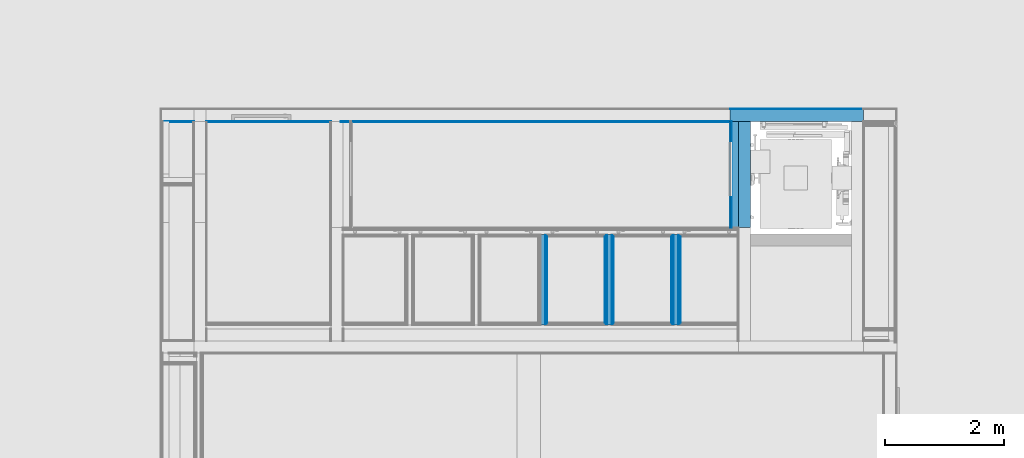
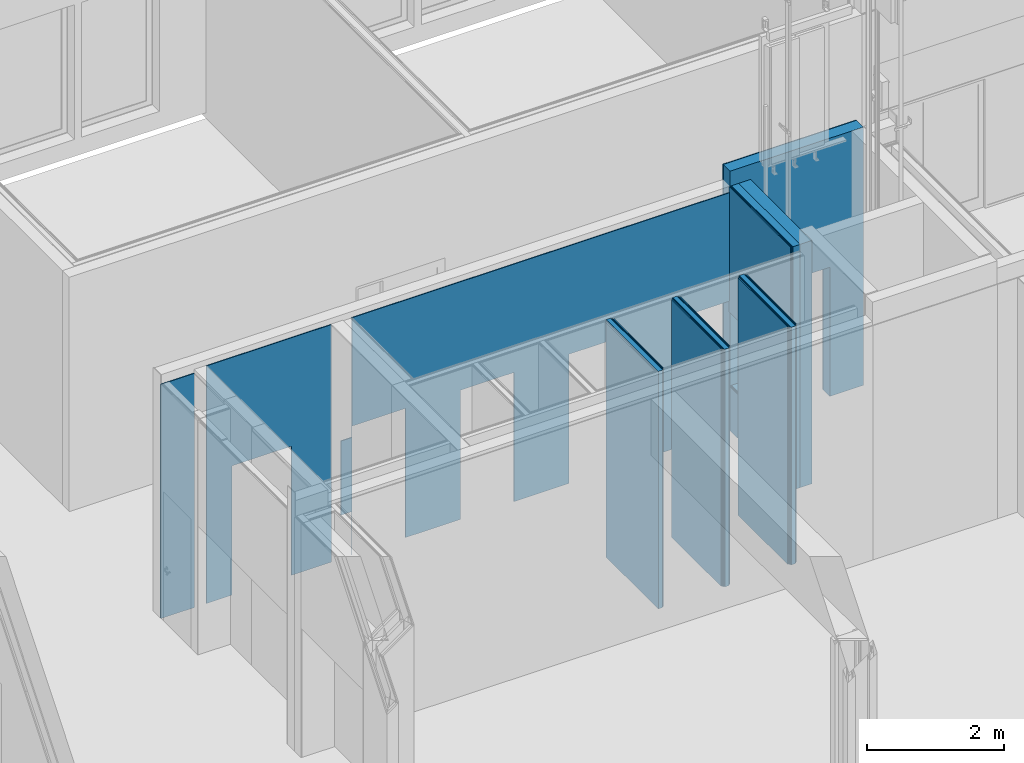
# One storey, part 183 of 260: 26 building element parts, 9 openings, 6 elements without a shape of their own.
"""IFC2X3 building model written with IfcOpenShell, lengths in millimetres."""

from ifc_helpers import new_model, entity, si_unit, converted_unit, derived_unit, money_unit, direction, frame, origin_with_axes, place, context, subcontext, project, spatial, faceted_brep, material, type_object, element, aggregate, save


model = new_model("IFC2X3")

# Units and contexts
model_context = context("Model", 3, precision=0.01, world=origin_with_axes(), true_north=direction((0.0, 1.0)))
body_context = subcontext(model_context, "Body", "Model", "MODEL_VIEW")
ifc_project = project(units=[si_unit("LENGTHUNIT", "METRE", prefix="MILLI"), si_unit("AREAUNIT", "SQUARE_METRE"), si_unit("VOLUMEUNIT", "CUBIC_METRE"), converted_unit("PLANEANGLEUNIT", "DEGREE", entity("IfcPlaneAngleMeasure", 0.0174532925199), si_unit("PLANEANGLEUNIT", "RADIAN"), dimensions=[0, 0, 0, 0, 0, 0, 0]), money_unit("EUR"), converted_unit("TIMEUNIT", "Year", entity("IfcTimeMeasure", 31556926.0), si_unit("TIMEUNIT", "SECOND"), dimensions=[0, 0, 1, 0, 0, 0, 0]), si_unit("MASSUNIT", "GRAM", prefix="KILO"), si_unit("THERMODYNAMICTEMPERATUREUNIT", "DEGREE_CELSIUS"), si_unit("LUMINOUSINTENSITYUNIT", "LUMEN"), si_unit("ENERGYUNIT", "JOULE", prefix="MEGA"), derived_unit("THERMALCONDUCTANCEUNIT", [(si_unit("POWERUNIT", "WATT"), 1), (si_unit("LENGTHUNIT", "METRE"), -1), (si_unit("THERMODYNAMICTEMPERATUREUNIT", "KELVIN"), -1)]), derived_unit("SPECIFICHEATCAPACITYUNIT", [(si_unit("ENERGYUNIT", "JOULE"), 1), (si_unit("MASSUNIT", "GRAM", prefix="KILO"), -1), (si_unit("THERMODYNAMICTEMPERATUREUNIT", "KELVIN"), -1)]), derived_unit("MASSDENSITYUNIT", [(si_unit("MASSUNIT", "GRAM", prefix="KILO"), 1), (si_unit("VOLUMEUNIT", "CUBIC_METRE"), -1)])], contexts=[model_context])

# Site, building, storey
site_placement = place(None, origin_with_axes())
site = spatial("IfcSite", under=ifc_project, at=site_placement, Name="Kolde pst 67a", CompositionType="ELEMENT")
building_placement = place(site_placement, origin_with_axes())
building = spatial("IfcBuilding", under=site, at=building_placement, Name="Riigigümnaasium", CompositionType="ELEMENT")
storey_placement = place(building_placement, origin_with_axes())
storey = spatial("IfcBuildingStorey", under=building, at=storey_placement, Name="1. korrus", CompositionType="ELEMENT", Elevation=0.0)

# Wall, building element parts
wall_type_1 = type_object("IfcWallType", Name="SS-MK-7,5/1_plaaditud 155", PredefinedType="NOTDEFINED")
wall_1_placement = place(storey_placement, frame((43519.9854607, 46179.9999966, 0.0), z_axis=(0.0, 0.0, 1.0), x_axis=(0.0, 1.0, 0.0)))
wall_1 = element("IfcWall", 1, at=wall_1_placement, inside=storey, type_object=wall_type_1, Name="Sisesein")
ifc_material_1 = material(Name="_VIIMISTLUSKIHT - viimistlus vastavalt SA osale")
building_element_part_1_placement = place(wall_1_placement, origin_with_axes())
building_element_part_1 = element("IfcBuildingElementPart", 2, at=building_element_part_1_placement, material=ifc_material_1, Name="_VIIMISTLUSKIHT - viimistlus vastavalt SA osale", context=body_context, shape_type="Brep", body=[
    faceted_brep([(1443.49996421, 0.0, 4230.0), (1443.49996421, -15.0, 4230.0), (1443.49996421, -15.0, 0.0), (1443.49996421, 0.0, 0.0), (0.0, -15.0, 4230.0), (0.0, 0.0, 4230.0), (0.0, -15.0, 0.0), (0.0, 0.0, 0.0)], [[[0, 1, 2, 3]], [[4, 1, 0, 5]], [[1, 4, 6, 2]], [[3, 2, 6, 7]], [[5, 0, 3, 7]], [[4, 5, 7, 6]]]),
])
ifc_material_2 = material(Name="_PLAATMATERJAL - kipsplaat veekindel")
building_element_part_2_placement = place(wall_1_placement, origin_with_axes())
building_element_part_2 = element("IfcBuildingElementPart", 3, at=building_element_part_2_placement, material=ifc_material_2, Name="_PLAATMATERJAL - kipsplaat veekindel", context=body_context, shape_type="Brep", body=[
    faceted_brep([(1458.49996421, -15.0, 4230.0), (1458.49996421, -27.5, 4230.0), (1458.49996421, -27.5, 0.0), (1458.49996421, -15.0, 0.0), (-15.0, -27.5, 4230.0), (-15.0, -15.0, 4230.0), (-15.0, -27.5, 0.0), (-15.0, -15.0, 0.0)], [[[0, 1, 2, 3]], [[4, 1, 0, 5]], [[1, 4, 6, 2]], [[3, 2, 6, 7]], [[5, 0, 3, 7]], [[4, 5, 7, 6]]]),
])
building_element_part_3_placement = place(wall_1_placement, origin_with_axes())
building_element_part_3 = element("IfcBuildingElementPart", 4, at=building_element_part_3_placement, material=ifc_material_2, Name="_PLAATMATERJAL - kipsplaat veekindel", context=body_context, shape_type="Brep", body=[
    faceted_brep([(1470.99996421, -27.5, 4230.0), (1470.99996421, -40.0, 4230.0), (1470.99996421, -40.0, 0.0), (1470.99996421, -27.5, 0.0), (-27.5, -40.0, 4230.0), (-27.5, -27.5, 4230.0), (-27.5, -40.0, 0.0), (-27.5, -27.5, 0.0)], [[[0, 1, 2, 3]], [[4, 1, 0, 5]], [[1, 4, 6, 2]], [[3, 2, 6, 7]], [[5, 0, 3, 7]], [[4, 5, 7, 6]]]),
])
ifc_material_3 = material(Name="_KARKASS - metallkarkass CW 75/50, mineraalvill karkassi vahel")
building_element_part_4_placement = place(wall_1_placement, origin_with_axes())
building_element_part_4 = element("IfcBuildingElementPart", 5, at=building_element_part_4_placement, material=ifc_material_3, Name="_KARKASS - metallkarkass CW 75/50, mineraalvill karkassi vahel", context=body_context, shape_type="Brep", body=[
    faceted_brep([(1483.49996421, -40.0, 4230.0), (1483.49996421, -115.0, 4230.0), (1483.49996421, -115.0, 0.0), (1483.49996421, -40.0, 0.0), (-40.0, -115.0, 4230.0), (-40.0, -40.0, 4230.0), (-40.0, -115.0, 0.0), (-40.0, -40.0, 0.0)], [[[0, 1, 2, 3]], [[4, 1, 0, 5]], [[1, 4, 6, 2]], [[3, 2, 6, 7]], [[5, 0, 3, 7]], [[4, 5, 7, 6]]]),
])
building_element_part_5_placement = place(wall_1_placement, origin_with_axes())
building_element_part_5 = element("IfcBuildingElementPart", 6, at=building_element_part_5_placement, material=ifc_material_2, Name="_PLAATMATERJAL - kipsplaat veekindel", context=body_context, shape_type="Brep", body=[
    faceted_brep([(1470.99996421, -115.0, 4230.0), (1470.99996421, -127.5, 4230.0), (1470.99996421, -127.5, 0.0), (1470.99996421, -115.0, 0.0), (-27.5, -127.5, 4230.0), (-27.5, -115.0, 4230.0), (-27.5, -127.5, 0.0), (-27.5, -115.0, 0.0)], [[[0, 1, 2, 3]], [[4, 1, 0, 5]], [[1, 4, 6, 2]], [[3, 2, 6, 7]], [[5, 0, 3, 7]], [[4, 5, 7, 6]]]),
])
building_element_part_6_placement = place(wall_1_placement, origin_with_axes())
building_element_part_6 = element("IfcBuildingElementPart", 7, at=building_element_part_6_placement, material=ifc_material_2, Name="_PLAATMATERJAL - kipsplaat veekindel", context=body_context, shape_type="Brep", body=[
    faceted_brep([(1458.49996421, -127.5, 4230.0), (1458.49996421, -140.0, 4230.0), (1458.49996421, -140.0, 0.0), (1458.49996421, -127.5, 0.0), (-15.0, -140.0, 4230.0), (-15.0, -127.5, 4230.0), (-15.0, -140.0, 0.0), (-15.0, -127.5, 0.0)], [[[0, 1, 2, 3]], [[4, 1, 0, 5]], [[1, 4, 6, 2]], [[3, 2, 6, 7]], [[5, 0, 3, 7]], [[4, 5, 7, 6]]]),
])
building_element_part_7_placement = place(wall_1_placement, origin_with_axes())
building_element_part_7 = element("IfcBuildingElementPart", 8, at=building_element_part_7_placement, material=ifc_material_1, Name="_VIIMISTLUSKIHT - viimistlus vastavalt SA osale", context=body_context, shape_type="Brep", body=[
    faceted_brep([(1443.49996421, -140.0, 4230.0), (1443.49996421, -155.0, 4230.0), (1443.49996421, -155.0, 0.0), (1443.49996421, -140.0, 0.0), (0.0, -155.0, 4230.0), (0.0, -140.0, 4230.0), (0.0, -155.0, 0.0), (0.0, -140.0, 0.0)], [[[0, 1, 2, 3]], [[4, 1, 0, 5]], [[1, 4, 6, 2]], [[3, 2, 6, 7]], [[5, 0, 3, 7]], [[4, 5, 7, 6]]]),
])
aggregate(wall_1, [building_element_part_1, building_element_part_2, building_element_part_3, building_element_part_4, building_element_part_5, building_element_part_6, building_element_part_7])

wall_2_placement = place(storey_placement, frame((42399.9854607, 46179.9999966, 0.0), z_axis=(0.0, 0.0, 1.0), x_axis=(0.0, 1.0, 0.0)))
wall_2 = element("IfcWall", 9, at=wall_2_placement, inside=storey, type_object=wall_type_1, Name="Sisesein")
building_element_part_8_placement = place(wall_2_placement, origin_with_axes())
building_element_part_8 = element("IfcBuildingElementPart", 10, at=building_element_part_8_placement, material=ifc_material_3, Name="_KARKASS - metallkarkass CW 75/50, mineraalvill karkassi vahel", context=body_context, shape_type="Brep", body=[
    faceted_brep([(1483.49996421, -40.0, 4230.0), (1483.49996421, -115.0, 4230.0), (1483.49996421, -115.0, 0.0), (1483.49996421, -40.0, 0.0), (-40.0, -115.0, 4230.0), (-40.0, -40.0, 4230.0), (-40.0, -115.0, 0.0), (-40.0, -40.0, 0.0)], [[[0, 1, 2, 3]], [[4, 1, 0, 5]], [[1, 4, 6, 2]], [[3, 2, 6, 7]], [[5, 0, 3, 7]], [[4, 5, 7, 6]]]),
])
building_element_part_9_placement = place(wall_2_placement, origin_with_axes())
building_element_part_9 = element("IfcBuildingElementPart", 11, at=building_element_part_9_placement, material=ifc_material_2, Name="_PLAATMATERJAL - kipsplaat veekindel", context=body_context, shape_type="Brep", body=[
    faceted_brep([(1470.99996421, -115.0, 4230.0), (1470.99996421, -127.5, 4230.0), (1470.99996421, -127.5, 0.0), (1470.99996421, -115.0, 0.0), (-27.5, -127.5, 4230.0), (-27.5, -115.0, 4230.0), (-27.5, -127.5, 0.0), (-27.5, -115.0, 0.0)], [[[0, 1, 2, 3]], [[4, 1, 0, 5]], [[1, 4, 6, 2]], [[3, 2, 6, 7]], [[5, 0, 3, 7]], [[4, 5, 7, 6]]]),
])
building_element_part_10_placement = place(wall_2_placement, origin_with_axes())
building_element_part_10 = element("IfcBuildingElementPart", 12, at=building_element_part_10_placement, material=ifc_material_2, Name="_PLAATMATERJAL - kipsplaat veekindel", context=body_context, shape_type="Brep", body=[
    faceted_brep([(1458.49996421, -127.5, 4230.0), (1458.49996421, -140.0, 4230.0), (1458.49996421, -140.0, 0.0), (1458.49996421, -127.5, 0.0), (-15.0, -140.0, 4230.0), (-15.0, -127.5, 4230.0), (-15.0, -140.0, 0.0), (-15.0, -127.5, 0.0)], [[[0, 1, 2, 3]], [[4, 1, 0, 5]], [[1, 4, 6, 2]], [[3, 2, 6, 7]], [[5, 0, 3, 7]], [[4, 5, 7, 6]]]),
])
building_element_part_11_placement = place(wall_2_placement, origin_with_axes())
building_element_part_11 = element("IfcBuildingElementPart", 13, at=building_element_part_11_placement, material=ifc_material_1, Name="_VIIMISTLUSKIHT - viimistlus vastavalt SA osale", context=body_context, shape_type="Brep", body=[
    faceted_brep([(1443.49996421, -140.0, 4230.0), (1443.49996421, -155.0, 4230.0), (1443.49996421, -155.0, 0.0), (1443.49996421, -140.0, 0.0), (0.0, -155.0, 4230.0), (0.0, -140.0, 4230.0), (0.0, -155.0, 0.0), (0.0, -140.0, 0.0)], [[[0, 1, 2, 3]], [[4, 1, 0, 5]], [[1, 4, 6, 2]], [[3, 2, 6, 7]], [[5, 0, 3, 7]], [[4, 5, 7, 6]]]),
])
aggregate(wall_2, [building_element_part_8, building_element_part_9, building_element_part_10, building_element_part_11])

wall_3_placement = place(storey_placement, frame((44639.9854607, 46179.9999966, 0.0), z_axis=(0.0, 0.0, 1.0), x_axis=(0.0, 1.0, 0.0)))
wall_3 = element("IfcWall", 14, at=wall_3_placement, inside=storey, type_object=wall_type_1, Name="Sisesein")
building_element_part_12_placement = place(wall_3_placement, origin_with_axes())
building_element_part_12 = element("IfcBuildingElementPart", 15, at=building_element_part_12_placement, material=ifc_material_1, Name="_VIIMISTLUSKIHT - viimistlus vastavalt SA osale", context=body_context, shape_type="Brep", body=[
    faceted_brep([(1443.49996421, 0.0, 4230.0), (1443.49996421, -15.0, 4230.0), (1443.49996421, -15.0, 0.0), (1443.49996421, 0.0, 0.0), (0.0, -15.0, 4230.0), (0.0, 0.0, 4230.0), (0.0, -15.0, 0.0), (0.0, 0.0, 0.0)], [[[0, 1, 2, 3]], [[4, 1, 0, 5]], [[1, 4, 6, 2]], [[3, 2, 6, 7]], [[5, 0, 3, 7]], [[4, 5, 7, 6]]]),
])
building_element_part_13_placement = place(wall_3_placement, origin_with_axes())
building_element_part_13 = element("IfcBuildingElementPart", 16, at=building_element_part_13_placement, material=ifc_material_2, Name="_PLAATMATERJAL - kipsplaat veekindel", context=body_context, shape_type="Brep", body=[
    faceted_brep([(1458.49996421, -15.0, 4230.0), (1458.49996421, -27.5, 4230.0), (1458.49996421, -27.5, 0.0), (1458.49996421, -15.0, 0.0), (-15.0, -27.5, 4230.0), (-15.0, -15.0, 4230.0), (-15.0, -27.5, 0.0), (-15.0, -15.0, 0.0)], [[[0, 1, 2, 3]], [[4, 1, 0, 5]], [[1, 4, 6, 2]], [[3, 2, 6, 7]], [[5, 0, 3, 7]], [[4, 5, 7, 6]]]),
])
building_element_part_14_placement = place(wall_3_placement, origin_with_axes())
building_element_part_14 = element("IfcBuildingElementPart", 17, at=building_element_part_14_placement, material=ifc_material_2, Name="_PLAATMATERJAL - kipsplaat veekindel", context=body_context, shape_type="Brep", body=[
    faceted_brep([(1470.99996421, -27.5, 4230.0), (1470.99996421, -40.0, 4230.0), (1470.99996421, -40.0, 0.0), (1470.99996421, -27.5, 0.0), (-27.5, -40.0, 4230.0), (-27.5, -27.5, 4230.0), (-27.5, -40.0, 0.0), (-27.5, -27.5, 0.0)], [[[0, 1, 2, 3]], [[4, 1, 0, 5]], [[1, 4, 6, 2]], [[3, 2, 6, 7]], [[5, 0, 3, 7]], [[4, 5, 7, 6]]]),
])
building_element_part_15_placement = place(wall_3_placement, origin_with_axes())
building_element_part_15 = element("IfcBuildingElementPart", 18, at=building_element_part_15_placement, material=ifc_material_3, Name="_KARKASS - metallkarkass CW 75/50, mineraalvill karkassi vahel", context=body_context, shape_type="Brep", body=[
    faceted_brep([(1483.49996421, -40.0, 4230.0), (1483.49996421, -115.0, 4230.0), (1483.49996421, -115.0, 0.0), (1483.49996421, -40.0, 0.0), (-40.0, -115.0, 4230.0), (-40.0, -40.0, 4230.0), (-40.0, -115.0, 0.0), (-40.0, -40.0, 0.0)], [[[0, 1, 2, 3]], [[4, 1, 0, 5]], [[1, 4, 6, 2]], [[3, 2, 6, 7]], [[5, 0, 3, 7]], [[4, 5, 7, 6]]]),
])
building_element_part_16_placement = place(wall_3_placement, origin_with_axes())
building_element_part_16 = element("IfcBuildingElementPart", 19, at=building_element_part_16_placement, material=ifc_material_2, Name="_PLAATMATERJAL - kipsplaat veekindel", context=body_context, shape_type="Brep", body=[
    faceted_brep([(1470.99996421, -115.0, 4230.0), (1470.99996421, -127.5, 4230.0), (1470.99996421, -127.5, 0.0), (1470.99996421, -115.0, 0.0), (-27.5, -127.5, 4230.0), (-27.5, -115.0, 4230.0), (-27.5, -127.5, 0.0), (-27.5, -115.0, 0.0)], [[[0, 1, 2, 3]], [[4, 1, 0, 5]], [[1, 4, 6, 2]], [[3, 2, 6, 7]], [[5, 0, 3, 7]], [[4, 5, 7, 6]]]),
])
building_element_part_17_placement = place(wall_3_placement, origin_with_axes())
building_element_part_17 = element("IfcBuildingElementPart", 20, at=building_element_part_17_placement, material=ifc_material_2, Name="_PLAATMATERJAL - kipsplaat veekindel", context=body_context, shape_type="Brep", body=[
    faceted_brep([(1458.49996421, -127.5, 4230.0), (1458.49996421, -140.0, 4230.0), (1458.49996421, -140.0, 0.0), (1458.49996421, -127.5, 0.0), (-15.0, -140.0, 4230.0), (-15.0, -127.5, 4230.0), (-15.0, -140.0, 0.0), (-15.0, -127.5, 0.0)], [[[0, 1, 2, 3]], [[4, 1, 0, 5]], [[1, 4, 6, 2]], [[3, 2, 6, 7]], [[5, 0, 3, 7]], [[4, 5, 7, 6]]]),
])
building_element_part_18_placement = place(wall_3_placement, origin_with_axes())
building_element_part_18 = element("IfcBuildingElementPart", 21, at=building_element_part_18_placement, material=ifc_material_1, Name="_VIIMISTLUSKIHT - viimistlus vastavalt SA osale", context=body_context, shape_type="Brep", body=[
    faceted_brep([(1443.49996421, -140.0, 4230.0), (1443.49996421, -155.0, 4230.0), (1443.49996421, -155.0, 0.0), (1443.49996421, -140.0, 0.0), (0.0, -155.0, 4230.0), (0.0, -140.0, 4230.0), (0.0, -155.0, 0.0), (0.0, -140.0, 0.0)], [[[0, 1, 2, 3]], [[4, 1, 0, 5]], [[1, 4, 6, 2]], [[3, 2, 6, 7]], [[5, 0, 3, 7]], [[4, 5, 7, 6]]]),
])
aggregate(wall_3, [building_element_part_12, building_element_part_13, building_element_part_14, building_element_part_15, building_element_part_16, building_element_part_17, building_element_part_18])

# Wall, openings, building element part
wall_type_2 = type_object("IfcWallType", Name="SS-RB-20/2_+2 plaat 230", PredefinedType="NOTDEFINED")
wall_4_placement = place(storey_placement, frame((36039.99923, 49769.9999599, -80.0), z_axis=(0.0, 0.0, 1.0), x_axis=(1.0, 0.0, 0.0)))
wall_4 = element("IfcWall", 22, at=wall_4_placement, inside=storey, type_object=wall_type_2, Name="Sisesein")
opening_1_placement = place(wall_4_placement, origin_with_axes())
element("IfcOpeningElement", 23, at=opening_1_placement, cuts=wall_4, Name="Pale", context=body_context, shape_type="Brep", body=[
    faceted_brep([(15.0, 15.0, 0.0), (0.0, 15.0, 0.0), (0.0, 15.0, 4410.0), (15.0, 15.0, 4410.0), (15.0, -200.0, 0.0), (0.0, -200.0, 0.0), (0.0, -200.0, 4410.0), (15.0, -200.0, 4410.0)], [[[0, 1, 2, 3]], [[0, 4, 5, 1]], [[1, 5, 6, 2]], [[3, 2, 6, 7]], [[4, 0, 3, 7]], [[5, 4, 7, 6]]]),
])
opening_2_placement = place(wall_4_placement, frame((9139.98623068, 0.0, 80.0), z_axis=(0.0, 0.0, 1.0), x_axis=(1.0, 0.0, 0.0)))
element("IfcOpeningElement", 24, at=opening_2_placement, cuts=wall_4, Name="Ukseava", context=body_context, shape_type="Brep", body=[
    faceted_brep([(450.0, 460.0, 0.0), (450.0, 460.0, 2300.0), (450.0, -230.0, 2300.0), (450.0, -230.0, 0.0), (-450.0, 460.0, 0.0), (-450.0, 460.0, 2300.0), (-450.0, -230.0, 2300.0), (-450.0, -230.0, 0.0)], [[[0, 1, 2, 3]], [[0, 4, 5, 1]], [[1, 5, 6, 2]], [[3, 2, 6, 7]], [[4, 0, 3, 7]], [[5, 4, 7, 6]]]),
])
opening_3_placement = place(wall_4_placement, frame((1694.98623068, 0.0, 80.0), z_axis=(0.0, 0.0, 1.0), x_axis=(1.0, 0.0, 0.0)))
element("IfcOpeningElement", 25, at=opening_3_placement, cuts=wall_4, Name="Siseuks", context=body_context, shape_type="Brep", body=[
    faceted_brep([(-500.0, -85.0, 2300.0), (-500.0, -85.0, 0.0), (-500.0, -445.0, 0.0), (-500.0, -445.0, 2300.0), (500.0, -85.0, 2300.0), (500.0, -85.0, 0.0), (500.0, -445.0, 0.0), (500.0, -445.0, 2300.0)], [[[0, 1, 2, 3]], [[0, 4, 5, 1]], [[1, 5, 6, 2]], [[3, 2, 6, 7]], [[4, 0, 3, 7]], [[5, 4, 7, 6]]]),
    faceted_brep([(-500.0, -85.0, 0.0), (-500.0, -85.0, 2300.0), (-500.0, 245.0, 2300.0), (-500.0, 245.0, 0.0), (500.0, -85.0, 0.0), (500.0, -85.0, 2300.0), (500.0, 245.0, 2300.0), (500.0, 245.0, 0.0)], [[[0, 1, 2, 3]], [[0, 4, 5, 1]], [[1, 5, 6, 2]], [[3, 2, 6, 7]], [[4, 0, 3, 7]], [[5, 4, 7, 6]]]),
])
opening_4_placement = place(wall_4_placement, frame((7314.98623068, 0.0, 80.0), z_axis=(0.0, 0.0, 1.0), x_axis=(1.0, 0.0, 0.0)))
element("IfcOpeningElement", 26, at=opening_4_placement, cuts=wall_4, Name="Ukseava", context=body_context, shape_type="Brep", body=[
    faceted_brep([(450.0, 460.0, 0.0), (450.0, 460.0, 2300.0), (450.0, -230.0, 2300.0), (450.0, -230.0, 0.0), (-450.0, 460.0, 0.0), (-450.0, 460.0, 2300.0), (-450.0, -230.0, 2300.0), (-450.0, -230.0, 0.0)], [[[0, 1, 2, 3]], [[0, 4, 5, 1]], [[1, 5, 6, 2]], [[3, 2, 6, 7]], [[4, 0, 3, 7]], [[5, 4, 7, 6]]]),
])
opening_5_placement = place(wall_4_placement, frame((5489.98623068, 0.0, 80.0), z_axis=(0.0, 0.0, 1.0), x_axis=(1.0, 0.0, 0.0)))
element("IfcOpeningElement", 27, at=opening_5_placement, cuts=wall_4, Name="Ukseava", context=body_context, shape_type="Brep", body=[
    faceted_brep([(450.0, 460.0, 0.0), (450.0, 460.0, 2300.0), (450.0, -230.0, 2300.0), (450.0, -230.0, 0.0), (-450.0, 460.0, 0.0), (-450.0, 460.0, 2300.0), (-450.0, -230.0, 2300.0), (-450.0, -230.0, 0.0)], [[[0, 1, 2, 3]], [[0, 4, 5, 1]], [[1, 5, 6, 2]], [[3, 2, 6, 7]], [[4, 0, 3, 7]], [[5, 4, 7, 6]]]),
])
opening_6_placement = place(wall_4_placement, frame((3664.98623068, 0.0, 80.0), z_axis=(0.0, 0.0, 1.0), x_axis=(1.0, 0.0, 0.0)))
element("IfcOpeningElement", 28, at=opening_6_placement, cuts=wall_4, Name="Ukseava", context=body_context, shape_type="Brep", body=[
    faceted_brep([(450.0, 460.0, 0.0), (450.0, 460.0, 2300.0), (450.0, -230.0, 2300.0), (450.0, -230.0, 0.0), (-450.0, 460.0, 0.0), (-450.0, 460.0, 2300.0), (-450.0, -230.0, 2300.0), (-450.0, -230.0, 0.0)], [[[0, 1, 2, 3]], [[0, 4, 5, 1]], [[1, 5, 6, 2]], [[3, 2, 6, 7]], [[4, 0, 3, 7]], [[5, 4, 7, 6]]]),
])
building_element_part_19_placement = place(wall_4_placement, origin_with_axes())
building_element_part_19 = element("IfcBuildingElementPart", 29, at=building_element_part_19_placement, material=ifc_material_1, Name="_VIIMISTLUSKIHT - viimistlus vastavalt SA osale", context=body_context, shape_type="Brep", body=[
    faceted_brep([(565.000000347, -215.0, 80.0), (565.000000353, -200.0, 80.0), (565.0, -200.0, 4250.0), (565.0, -215.0, 4250.0), (0.0, -200.0, 80.0), (0.0, -215.0, 80.0), (0.0, -200.0, 4250.0), (0.0, -215.0, 4250.0)], [[[0, 1, 2, 3]], [[4, 1, 0, 5]], [[1, 4, 6, 2]], [[3, 2, 6, 7]], [[5, 0, 3, 7]], [[4, 5, 7, 6]]]),
    faceted_brep([(3214.98623068, -199.999999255, 2380.0), (3214.98623068, -199.999996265, 80.0), (3214.83128133, -199.999996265, 80.0), (3214.83128133, -199.99995985, 860.0), (3029.83128133, -199.99995985, 860.0), (3029.83128133, -199.99995985, 2180.0), (3214.83128133, -199.99995985, 2180.0), (3214.83128133, -199.99995985, 4310.0), (9589.98623068, -199.99995985, 4310.0), (9589.98623068, -199.999977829, 2380.0), (8689.98623068, -199.999999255, 2380.0), (8689.98623068, -199.999998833, 80.0), (7764.98623068, -199.999998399, 80.0), (7764.98623068, -199.999999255, 2380.0), (6864.98623068, -199.999999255, 2380.0), (6864.98623068, -199.999997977, 80.0), (5939.98623068, -199.999997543, 80.0), (5939.98623068, -199.999999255, 2380.0), (5039.98623068, -199.999999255, 2380.0), (5039.98623068, -199.999997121, 80.0), (4114.98623068, -199.999996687, 80.0), (4114.98623068, -199.999999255, 2380.0), (3214.98623068, -215.0, 2380.0), (3214.98623068, -215.0, 80.0), (3214.83128133, -215.0, 80.0), (3214.83128133, -215.0, 860.0), (3029.83128133, -215.0, 860.0), (3029.83128133, -215.0, 2180.0), (3214.83128133, -215.0, 2180.0), (3214.83128133, -215.0, 4310.0), (9589.98623068, -215.0, 4310.0), (9589.98623068, -215.0, 2380.0), (8689.98623068, -215.0, 2380.0), (8689.98623068, -215.0, 80.0), (7764.98623068, -215.0, 80.0), (7764.98623068, -215.0, 2380.0), (6864.98623068, -215.0, 2380.0), (6864.98623068, -215.0, 80.0), (5939.98623068, -215.0, 80.0), (5939.98623068, -215.0, 2380.0), (5039.98623068, -215.0, 2380.0), (5039.98623068, -215.0, 80.0), (4114.98623068, -215.0, 80.0), (4114.98623068, -215.0, 2380.0)], [[[0, 1, 2, 3, 4, 5, 6, 7, 8, 9, 10, 11, 12, 13, 14, 15, 16, 17, 18, 19, 20, 21]], [[1, 0, 22, 23]], [[1, 23, 24, 2]], [[2, 24, 25, 3]], [[4, 3, 25, 26]], [[27, 5, 4, 26]], [[27, 28, 6, 5]], [[29, 7, 6, 28]], [[30, 8, 7, 29]], [[30, 31, 9, 8]], [[32, 10, 9, 31]], [[33, 11, 10, 32]], [[11, 33, 34, 12]], [[34, 35, 13, 12]], [[35, 36, 14, 13]], [[36, 37, 15, 14]], [[16, 15, 37, 38]], [[16, 38, 39, 17]], [[17, 39, 40, 18]], [[18, 40, 41, 19]], [[42, 20, 19, 41]], [[21, 20, 42, 43]], [[0, 21, 43, 22]], [[43, 42, 41, 40, 39, 38, 37, 36, 35, 34, 33, 32, 31, 30, 29, 28, 27, 26, 25, 24, 23, 22]]]),
    faceted_brep([(1194.98623068, -199.999999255, 2380.0), (1194.98623068, -199.999999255, 80.0), (764.999999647, -199.999999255, 80.0), (764.999999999, -199.99995985, 4310.0), (2869.83128133, -199.99995985, 4310.0), (2869.83128133, -199.999999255, 80.0), (2194.98623068, -199.999999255, 80.0), (2194.98623068, -199.999999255, 2380.0), (1194.98623068, -215.0, 2380.0), (1194.98623068, -215.0, 80.0), (764.999999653, -215.0, 80.0), (764.999999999, -215.0, 4310.0), (2869.83128133, -215.0, 4310.0), (2869.83128133, -215.0, 80.0), (2194.98623068, -215.0, 80.0), (2194.98623068, -215.0, 2380.0)], [[[0, 1, 2, 3, 4, 5, 6, 7]], [[1, 0, 8, 9]], [[1, 9, 10, 2]], [[10, 11, 3, 2]], [[4, 3, 11, 12]], [[5, 4, 12, 13]], [[14, 6, 5, 13]], [[7, 6, 14, 15]], [[0, 7, 15, 8]], [[15, 14, 13, 12, 11, 10, 9, 8]]]),
])
aggregate(wall_4, [building_element_part_19])

# Wall, opening, building element parts
wall_type_3 = type_object("IfcWallType", Name="SS-RB-20/5_+1 plaat 215", PredefinedType="NOTDEFINED")
wall_5_placement = place(storey_placement, frame((45629.9854607, 49769.9999599, 0.0), z_axis=(0.0, 0.0, 1.0), x_axis=(1.0, 0.0, 0.0)))
wall_5 = element("IfcWall", 30, at=wall_5_placement, inside=storey, type_object=wall_type_3, Name="Sisesein")
opening_7_placement = place(wall_5_placement, frame((1078.76891191, 0.0, 0.0), z_axis=(0.0, 0.0, 1.0), x_axis=(1.0, 0.0, 0.0)))
element("IfcOpeningElement", 31, at=opening_7_placement, cuts=wall_5, Name="Siseuks", context=body_context, shape_type="Brep", body=[
    faceted_brep([(600.0, 215.0, 0.0), (600.0, 215.0, 2300.0), (600.0, -430.0, 2300.0), (600.0, -430.0, 0.0), (-600.0, 215.0, 0.0), (-600.0, 215.0, 2300.0), (-600.0, -430.0, 2300.0), (-600.0, -430.0, 0.0)], [[[0, 1, 2, 3]], [[0, 4, 5, 1]], [[1, 5, 6, 2]], [[3, 2, 6, 7]], [[4, 0, 3, 7]], [[5, 4, 7, 6]]]),
])
building_element_part_20_placement = place(wall_5_placement, origin_with_axes())
building_element_part_20 = element("IfcBuildingElementPart", 32, at=building_element_part_20_placement, material=ifc_material_1, Name="_VIIMISTLUSKIHT - viimistlus vastavalt SA osale", context=body_context, shape_type="Brep", body=[
    faceted_brep([(478.768911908, 15.0, 2300.0), (478.768911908, 15.0, 0.0), (0.0, 15.0, 0.0), (0.0, 15.0, 4597.0), (2245.0, 15.0, 4597.0), (2245.0, 15.0, 0.0), (1678.76891191, 15.0, 0.0), (1678.76891191, 15.0, 2300.0), (478.768911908, 0.0, 2300.0), (478.768911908, 0.0, 0.0), (0.0, 0.0, 0.0), (0.0, 0.0, 4597.0), (2245.0, 0.0, 4597.0), (2245.0, 0.0, 0.0), (1678.76891191, 0.0, 0.0), (1678.76891191, 0.0, 2300.0)], [[[0, 1, 2, 3, 4, 5, 6, 7]], [[1, 0, 8, 9]], [[1, 9, 10, 2]], [[3, 2, 10, 11]], [[4, 3, 11, 12]], [[13, 5, 4, 12]], [[14, 6, 5, 13]], [[7, 6, 14, 15]], [[0, 7, 15, 8]], [[15, 14, 13, 12, 11, 10, 9, 8]]]),
])
ifc_material_4 = material(Name="_KANDETARIND - monteeritav raudbetoon vastavalt EK osale")
building_element_part_21_placement = place(wall_5_placement, origin_with_axes())
building_element_part_21 = element("IfcBuildingElementPart", 33, at=building_element_part_21_placement, material=ifc_material_4, Name="_KANDETARIND - monteeritav raudbetoon vastavalt EK osale", context=body_context, shape_type="Brep", body=[
    faceted_brep([(478.768911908, 0.0, 2300.0), (478.768911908, 0.0, 0.0), (0.0, 0.0, 0.0), (0.0, 0.0, 4597.0), (2245.0, 0.0, 4597.0), (2245.0, 0.0, 0.0), (1678.76891191, 0.0, 0.0), (1678.76891191, 0.0, 2300.0), (478.768911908, -200.0, 2300.0), (478.768911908, -200.0, 0.0), (0.0, -200.0, 0.0), (0.0, -200.0, 4597.0), (2245.0, -200.0, 4597.0), (2245.0, -200.0, 0.0), (1678.76891191, -200.0, 0.0), (1678.76891191, -200.0, 2300.0)], [[[0, 1, 2, 3, 4, 5, 6, 7]], [[1, 0, 8, 9]], [[1, 9, 10, 2]], [[3, 2, 10, 11]], [[4, 3, 11, 12]], [[13, 5, 4, 12]], [[14, 6, 5, 13]], [[7, 6, 14, 15]], [[0, 7, 15, 8]], [[15, 14, 13, 12, 11, 10, 9, 8]]]),
])
aggregate(wall_5, [building_element_part_20, building_element_part_21])

# Wall, openings, building element parts
wall_type_4 = type_object("IfcWallType", Name="SS-RB-20/10_+1 plaat +kollektor 360", PredefinedType="NOTDEFINED")
wall_6_placement = place(storey_placement, frame((45774.9854607, 47778.4999608, 0.0), z_axis=(0.0, 0.0, 1.0), x_axis=(0.0, 1.0, 0.0)))
wall_6 = element("IfcWall", 34, at=wall_6_placement, inside=storey, type_object=wall_type_4, Name="Sisesein")
opening_8_placement = place(wall_6_placement, frame((-47778.4999608, 45774.9854607, 0.0), z_axis=(0.0, 0.0, 1.0), x_axis=(0.0, -1.0, 0.0)))
element("IfcOpeningElement", 35, at=opening_8_placement, cuts=wall_6, Name="Tulekustuti nišš vastavalt SA osale", ObjectType="OPENING", context=body_context, shape_type="Brep", body=[
    faceted_brep([(45774.9854607, 48319.9999328, 0.0), (45774.9854607, 48319.9999328, 900.0), (45614.9854607, 48319.9999328, 900.0), (45614.9854607, 48319.9999328, 0.0), (45774.9854607, 49219.9999328, 0.0), (45774.9854607, 49219.9999328, 900.0), (45614.9854607, 49219.9999328, 900.0), (45614.9854607, 49219.9999328, 0.0)], [[[0, 1, 2, 3]], [[0, 4, 5, 1]], [[1, 5, 6, 2]], [[3, 2, 6, 7]], [[4, 0, 3, 7]], [[5, 4, 7, 6]]]),
])
opening_9_placement = place(wall_6_placement, frame((-47778.4999608, 45774.9854607, 0.0), z_axis=(0.0, 0.0, 1.0), x_axis=(0.0, -1.0, 0.0)))
element("IfcOpeningElement", 36, at=opening_9_placement, cuts=wall_6, Name="Tulekustuti nišš vastavalt SA osale", ObjectType="OPENING", context=body_context, shape_type="Brep", body=[
    faceted_brep([(45814.9854712, 49319.9999599, 780.0), (45814.9854712, 49319.9999599, 2100.0), (45614.9854712, 49319.9999599, 2100.0), (45614.9854712, 49319.9999599, 780.0), (45814.9854712, 49569.9999599, 780.0), (45814.9854712, 49569.9999599, 2100.0), (45614.9854712, 49569.9999599, 2100.0), (45614.9854712, 49569.9999599, 780.0)], [[[0, 1, 2, 3]], [[0, 4, 5, 1]], [[1, 5, 6, 2]], [[3, 2, 6, 7]], [[4, 0, 3, 7]], [[5, 4, 7, 6]]]),
])
building_element_part_22_placement = place(wall_6_placement, origin_with_axes())
building_element_part_22 = element("IfcBuildingElementPart", 37, at=building_element_part_22_placement, material=ifc_material_1, Name="_VIIMISTLUSKIHT - viimistlus vastavalt SA osale", context=body_context, shape_type="Brep", body=[
    faceted_brep([(541.499972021, 145.0, 900.0), (541.499972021, 145.0, 1500.0), (1441.49999016, 145.0, 1500.0), (1441.49999016, 145.0, 900.0), (1441.49997202, 145.0, 0.0), (1791.49999905, 145.0, 0.0), (1791.49999905, 145.0, 780.0), (1541.49999905, 145.0, 780.0), (1541.49999905, 145.0, 2100.0), (1791.49999905, 145.0, 2100.0), (1791.49999905, 145.0, 4329.99999523), (0.0, 145.0, 4329.99999523), (0.0, 145.0, 0.0), (541.499972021, 145.0, 0.0), (541.499972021, 160.0, 900.0), (541.499972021, 160.0, 1500.0), (1441.49999016, 160.0, 1500.0), (1441.49999016, 160.0, 900.0), (1441.49997202, 160.0, 0.0), (1791.49999905, 160.0, 0.0), (1791.49999905, 159.999989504, 780.0), (1541.49999905, 159.999989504, 780.0), (1541.49999905, 159.999989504, 2100.0), (1791.49999905, 159.999989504, 2100.0), (1791.49999905, 160.0, 4329.99999523), (0.0, 160.0, 4329.99999523), (0.0, 160.0, 0.0), (541.499972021, 160.0, 0.0)], [[[0, 1, 2, 3, 4, 5, 6, 7, 8, 9, 10, 11, 12, 13]], [[1, 0, 14, 15]], [[2, 1, 15, 16]], [[3, 2, 16, 17]], [[3, 17, 18, 4]], [[5, 4, 18, 19]], [[19, 20, 6, 5]], [[21, 7, 6, 20]], [[22, 8, 7, 21]], [[22, 23, 9, 8]], [[10, 9, 23, 24]], [[25, 11, 10, 24]], [[26, 12, 11, 25]], [[26, 27, 13, 12]], [[14, 0, 13, 27]], [[15, 14, 27, 26, 25, 24, 23, 22, 21, 20, 19, 18, 17, 16]]]),
])
building_element_part_23_placement = place(wall_6_placement, origin_with_axes())
building_element_part_23 = element("IfcBuildingElementPart", 38, at=building_element_part_23_placement, material=ifc_material_2, Name="_PLAATMATERJAL - kipsplaat veekindel", context=body_context, shape_type="Brep", body=[
    faceted_brep([(541.499972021, 132.5, 900.0), (541.499972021, 132.5, 1500.0), (1441.49999016, 132.5, 1500.0), (1441.49999016, 132.5, 900.0), (1441.49997202, 132.5, 0.0), (1791.49999905, 132.5, 0.0), (1791.49999905, 132.5, 780.0), (1541.49999905, 132.5, 780.0), (1541.49999905, 132.5, 2100.0), (1791.49999905, 132.5, 2100.0), (1791.49999905, 132.5, 4329.99999523), (0.0, 132.5, 4329.99999523), (0.0, 132.5, 0.0), (541.499972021, 132.5, 0.0), (541.499972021, 145.0, 900.0), (541.499972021, 145.0, 1500.0), (1441.49999016, 145.0, 1500.0), (1441.49999016, 145.0, 900.0), (1441.49997202, 145.0, 0.0), (1791.49999905, 145.0, 0.0), (1791.49999905, 145.0, 780.0), (1541.49999905, 145.0, 780.0), (1541.49999905, 145.0, 2100.0), (1791.49999905, 145.0, 2100.0), (1791.49999905, 145.0, 4329.99999523), (0.0, 145.0, 4329.99999523), (0.0, 145.0, 0.0), (541.499972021, 145.0, 0.0)], [[[0, 1, 2, 3, 4, 5, 6, 7, 8, 9, 10, 11, 12, 13]], [[1, 0, 14, 15]], [[2, 1, 15, 16]], [[3, 2, 16, 17]], [[3, 17, 18, 4]], [[5, 4, 18, 19]], [[19, 20, 6, 5]], [[21, 7, 6, 20]], [[22, 8, 7, 21]], [[22, 23, 9, 8]], [[10, 9, 23, 24]], [[25, 11, 10, 24]], [[26, 12, 11, 25]], [[26, 27, 13, 12]], [[14, 0, 13, 27]], [[15, 14, 27, 26, 25, 24, 23, 22, 21, 20, 19, 18, 17, 16]]]),
])
building_element_part_24_placement = place(wall_6_placement, origin_with_axes())
building_element_part_24 = element("IfcBuildingElementPart", 39, at=building_element_part_24_placement, material=ifc_material_2, Name="_PLAATMATERJAL - kipsplaat veekindel", context=body_context, shape_type="Brep", body=[
    faceted_brep([(541.499972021, 120.0, 900.0), (541.499972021, 120.0, 1500.0), (1441.49999016, 120.0, 1500.0), (1441.49999016, 120.0, 900.0), (1441.49997202, 120.0, 0.0), (1791.49999905, 120.0, 0.0), (1791.49999905, 120.0, 780.0), (1541.49999905, 120.0, 780.0), (1541.49999905, 120.0, 2100.0), (1791.49999905, 120.0, 2100.0), (1791.49999905, 120.0, 4329.99999523), (0.0, 120.0, 4329.99999523), (0.0, 120.0, 0.0), (541.499972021, 120.0, 0.0), (541.499972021, 132.5, 900.0), (541.499972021, 132.5, 1500.0), (1441.49999016, 132.5, 1500.0), (1441.49999016, 132.5, 900.0), (1441.49997202, 132.5, 0.0), (1791.49999905, 132.5, 0.0), (1791.49999905, 132.5, 780.0), (1541.49999905, 132.5, 780.0), (1541.49999905, 132.5, 2100.0), (1791.49999905, 132.5, 2100.0), (1791.49999905, 132.5, 4329.99999523), (0.0, 132.5, 4329.99999523), (0.0, 132.5, 0.0), (541.499972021, 132.5, 0.0)], [[[0, 1, 2, 3, 4, 5, 6, 7, 8, 9, 10, 11, 12, 13]], [[1, 0, 14, 15]], [[2, 1, 15, 16]], [[3, 2, 16, 17]], [[3, 17, 18, 4]], [[5, 4, 18, 19]], [[19, 20, 6, 5]], [[21, 7, 6, 20]], [[22, 8, 7, 21]], [[22, 23, 9, 8]], [[10, 9, 23, 24]], [[25, 11, 10, 24]], [[26, 12, 11, 25]], [[26, 27, 13, 12]], [[14, 0, 13, 27]], [[15, 14, 27, 26, 25, 24, 23, 22, 21, 20, 19, 18, 17, 16]]]),
])
ifc_material_5 = material(Name="_KARKASS - eriprofiilkinnitus vastavalt sisemisele plaatviimistlusele")
building_element_part_25_placement = place(wall_6_placement, origin_with_axes())
building_element_part_25 = element("IfcBuildingElementPart", 40, at=building_element_part_25_placement, material=ifc_material_5, Name="_KARKASS - eriprofiilkinnitus vastavalt sisemisele plaatviimistlusele", context=body_context, shape_type="Brep", body=[
    faceted_brep([(1791.49999905, 0.0, 780.0), (1541.49999905, 0.0, 780.0), (1541.49999905, 0.0, 2100.0), (1791.49999905, 0.0, 2100.0), (1791.49999905, 0.0, 4329.99999523), (0.0, 0.0, 4329.99999523), (0.0, 0.0, 0.0), (541.499972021, 0.0, 0.0), (541.499972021, 0.0, 900.0), (1441.49997202, 0.0, 900.0), (1441.49997202, 0.0, 0.0), (1791.49999905, 0.0, 0.0), (1541.49999905, 120.0, 780.0), (1791.49999905, 120.0, 780.0), (1541.49999905, 120.0, 2100.0), (1791.49999905, 120.0, 2100.0), (1791.49999905, 120.0, 4329.99999523), (0.0, 120.0, 4329.99999523), (0.0, 120.0, 0.0), (541.499972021, 120.0, 0.0), (541.499972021, 120.0, 900.0), (1441.49997202, 120.0, 900.0), (1441.49997202, 120.0, 0.0), (1791.49999905, 120.0, 0.0)], [[[0, 1, 2, 3, 4, 5, 6, 7, 8, 9, 10, 11]], [[12, 1, 0, 13]], [[14, 2, 1, 12]], [[14, 15, 3, 2]], [[4, 3, 15, 16]], [[17, 5, 4, 16]], [[18, 6, 5, 17]], [[18, 19, 7, 6]], [[20, 8, 7, 19]], [[21, 9, 8, 20]], [[22, 10, 9, 21]], [[11, 10, 22, 23]], [[23, 13, 0, 11]], [[14, 12, 13, 23, 22, 21, 20, 19, 18, 17, 16, 15]]]),
])
building_element_part_26_placement = place(wall_6_placement, origin_with_axes())
building_element_part_26 = element("IfcBuildingElementPart", 41, at=building_element_part_26_placement, material=ifc_material_4, Name="_KANDETARIND - monteeritav raudbetoon vastavalt EK osale", context=body_context, shape_type="Brep", body=[
    faceted_brep([(1791.49999905, 0.0, 780.0), (1791.49999905, -40.0000104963, 780.0), (1791.49999905, -40.0000104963, 2100.0), (1791.49999905, 0.0, 2100.0), (1791.49999905, 0.0, 4329.99999523), (1791.49999905, -200.0, 4329.99999523), (1791.49999905, -200.0, 0.0), (1791.49999905, 0.0, 0.0), (1541.49999905, 0.0, 780.0), (1541.49999905, -40.0000104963, 780.0), (1541.49999905, -40.0000104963, 2100.0), (1541.49999905, 0.0, 2100.0), (0.0, 0.0, 0.0), (0.0, 0.0, 4329.99999523), (0.0, -200.0, 4329.99999523), (0.0, -200.0, 0.0)], [[[0, 1, 2, 3, 4, 5, 6, 7]], [[1, 0, 8, 9]], [[2, 1, 9, 10]], [[3, 2, 10, 11]], [[8, 0, 7, 12, 13, 4, 3, 11]], [[14, 5, 4, 13]], [[15, 6, 5, 14]], [[12, 7, 6, 15]], [[8, 11, 10, 9]], [[15, 14, 13, 12]]]),
])
aggregate(wall_6, [building_element_part_22, building_element_part_23, building_element_part_24, building_element_part_25, building_element_part_26])

save(model, "model.ifc")
